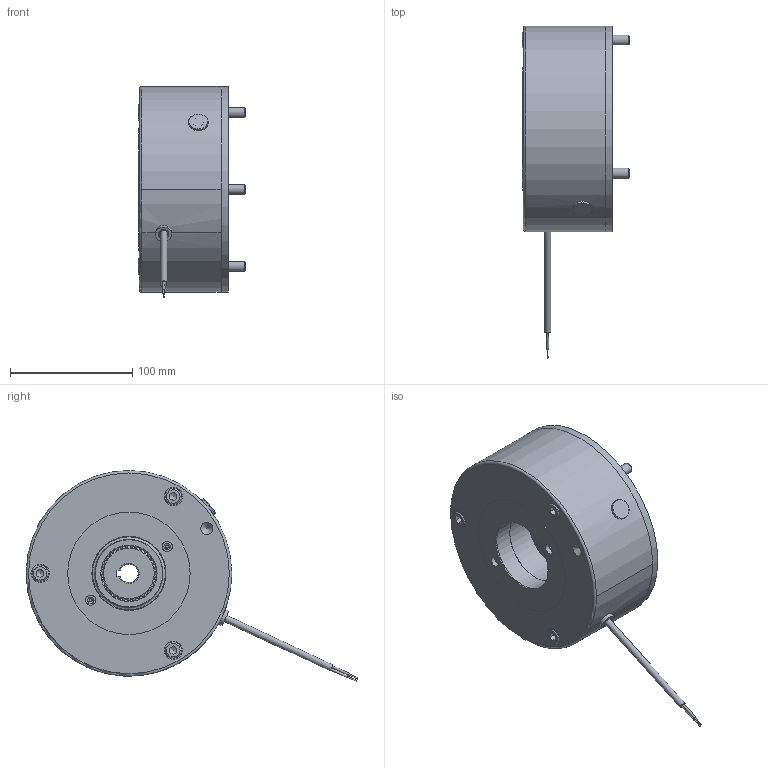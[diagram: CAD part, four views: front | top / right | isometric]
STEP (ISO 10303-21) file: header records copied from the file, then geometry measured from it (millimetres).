
FILE_DESCRIPTION(/* description */ (''),/* implementation_level */ '2;1');
FILE_NAME(/* name */ 'C:\SapWorkDir\Inventor\IP1\ConvertTempPath\5028803_IPT_000.ipt.stp',/* time_stamp */ '2020-09-18T11:38:04+02:00',/* author */ ('STRATE'),/* organization */ (''),/* preprocessor_version */ 'ST-DEVELOPER v17',/* originating_system */ 'Autodesk Inventor 2018',/* authorisation */ '');
FILE_SCHEMA (('AUTOMOTIVE_DESIGN { 1 0 10303 214 3 1 1 }'));
Length unit declared in the file: millimetre
Products named in the file (1): 5028803
Bounding box: 88 x 271.01 x 172.34 mm (x, y, z)
Volume: 1158686.6 mm3; surface area: 187358.1 mm2
Topology: 4 solids, 4 shells, 443 faces, 1257 edges, 853 vertices
Faces by surface type: cylinder 318, plane 80, cone 23, torus 22
Full cylindrical faces by diameter (mm): 0.01 x1, 1 x2, 1.85 x2, 5.3 x1, 6.6 x1, 8 x3, 8.376 x2, 9 x3, 10 x1, 13 x3, 13.2 x1, 13.9 x3, 15 x3, 16 x1, 60 x1, 60.5 x1, 70 x1, 79.5 x2, 100 x1, 124 x1, 159 x1, 165.2 x2, 168 x1
Entity records: 16162 total; most frequent: CARTESIAN_POINT 4139, ORIENTED_EDGE 2510, DIRECTION 2332, EDGE_CURVE 1255, AXIS2_PLACEMENT_3D 958, VERTEX_POINT 853, CIRCLE 514, EDGE_LOOP 494
